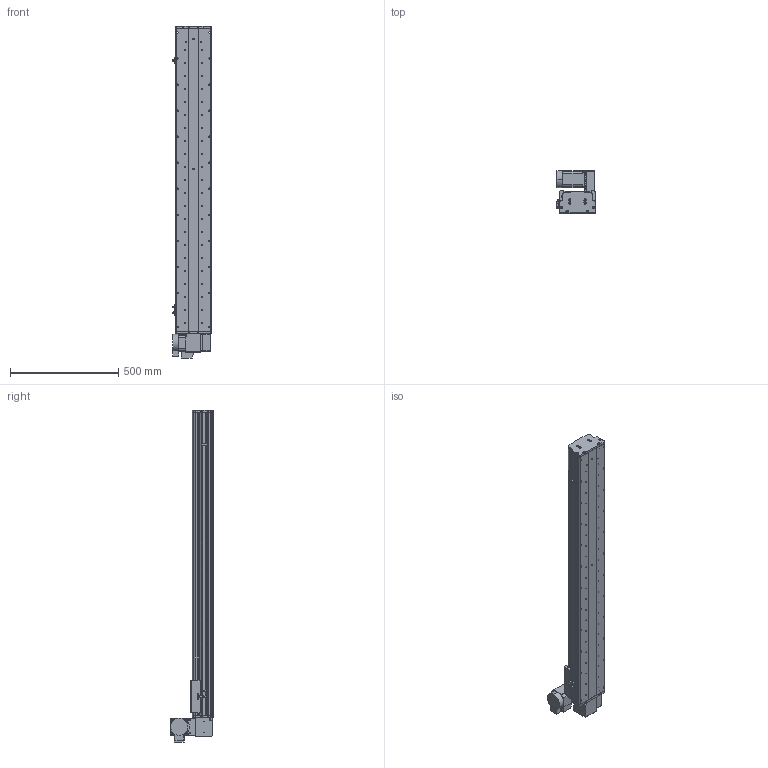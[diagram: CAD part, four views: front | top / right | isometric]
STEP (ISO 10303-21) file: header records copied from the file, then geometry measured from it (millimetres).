
FILE_DESCRIPTION (( 'STEP AP214' ), '1' );
FILE_NAME ('KSD165B-S1150-MRU-CM.STEP', '2017-10-17T02:42:29', ( '微软用户' ), ( '微软中国' ), 'SwSTEP 2.0', 'SolidWorks 2014', '' );
FILE_SCHEMA (( 'AUTOMOTIVE_DESIGN' ));
Length unit declared in the file: millimetre
Products named in the file (17): KSD165模组-同步带滑动座-最新版; KSD165B-S1150-MRU-CM; 130宽模组马达安装板连板上下折丝杆同步带; 130宽模组保护罩上下左右折-同步带; HTPA26S5M250-A-H8 750W萇儂蚚; HTPA26S5M250-A-H8 400W萇儂蚚 ; KSD165模组-同步带防尘盖1-1150行程; KSD165模组同步带底板-1150行程; 拸秶雄ん750W侜督萇儂; 165宽马达安装板同步带右; U倰嫖萇假蚾璃; U倰嫖萇EEㄜSX672; 覜茼え68遵圉猾敕; KSD165模组-同步带-防撞垫2; KSD165模组同步带-防撞垫1; KSD165耀郪-ヶ傷啣1-肮祭湍; KSD165模组-后端板1-同步带
Assembly tree (20 placements, depth 2):
  KSD165B-S1150-MRU-CM
    KSD165模组-同步带滑动座-最新版
    KSD165模组-后端板1-同步带
    KSD165耀郪-ヶ傷啣1-肮祭湍
    KSD165模组同步带-防撞垫1
    KSD165模组-同步带-防撞垫2
    覜茼え68遵圉猾敕
    U倰嫖萇EEㄜSX672  x3
    U倰嫖萇假蚾璃  x3
    165宽马达安装板同步带右
    拸秶雄ん750W侜督萇儂
    KSD165模组同步带底板-1150行程
    KSD165模组-同步带防尘盖1-1150行程
    HTPA26S5M250-A-H8 400W萇儂蚚 
    HTPA26S5M250-A-H8 750W萇儂蚚
    130宽模组保护罩上下左右折-同步带
    130宽模组马达安装板连板上下折丝杆同步带
Bounding box: 178.7 x 198 x 1530.5 mm (x, y, z)
Volume: 8594851 mm3; surface area: 1999477.5 mm2
Topology: 21 solids, 21 shells, 1993 faces, 5634 edges, 3680 vertices
Faces by surface type: cylinder 1291, plane 590, cone 112
Entity records: 65052 total; most frequent: CARTESIAN_POINT 13336, DIRECTION 10662, ORIENTED_EDGE 9928, EDGE_CURVE 4964, AXIS2_PLACEMENT_3D 4188, VERTEX_POINT 3272, CIRCLE 2392, VECTOR 2286
